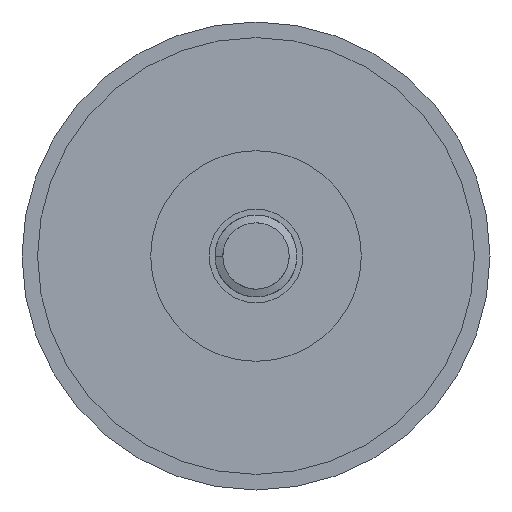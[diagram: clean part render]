
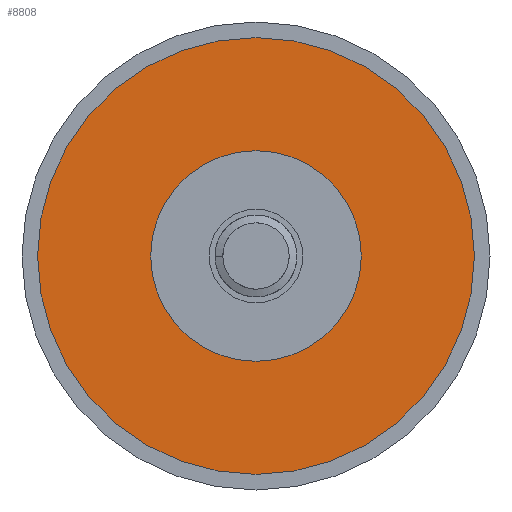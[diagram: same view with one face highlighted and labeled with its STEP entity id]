
A CAD part, front view. The second image highlights one B-rep face of the part: STEP entity #8808.
In plain terms, the highlighted planar face has unit normal (0, -1, 0).
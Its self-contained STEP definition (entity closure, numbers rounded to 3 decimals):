
#532 = EDGE_CURVE ( 'NONE', #14907, #8446, #4493, .T. ) ;
#1558 = ORIENTED_EDGE ( 'NONE', *, *, #8915, .F. ) ;
#1639 = CARTESIAN_POINT ( 'NONE',  ( 0., 0., 0. ) ) ;
#2170 = AXIS2_PLACEMENT_3D ( 'NONE', #8179, #19526, #9792 ) ;
#3312 = DIRECTION ( 'NONE',  ( 0., 0., -1. ) ) ;
#3683 = CARTESIAN_POINT ( 'NONE',  ( 0., 0., -13.5 ) ) ;
#4378 = PLANE ( 'NONE',  #15623 ) ;
#4493 = CIRCLE ( 'NONE', #15656, 13.5 ) ;
#5378 = CIRCLE ( 'NONE', #2170, 28. ) ;
#6002 = DIRECTION ( 'NONE',  ( 0., 1., 0. ) ) ;
#6334 = ORIENTED_EDGE ( 'NONE', *, *, #12310, .F. ) ;
#8172 = CARTESIAN_POINT ( 'NONE',  ( 0., 0., 0. ) ) ;
#8179 = CARTESIAN_POINT ( 'NONE',  ( 0., 0., 0. ) ) ;
#8350 = CARTESIAN_POINT ( 'NONE',  ( 0., 0., -28. ) ) ;
#8446 = VERTEX_POINT ( 'NONE', #3683 ) ;
#8778 = VERTEX_POINT ( 'NONE', #18740 ) ;
#8808 = ADVANCED_FACE ( 'NONE', ( #13991, #18790 ), #4378, .F. ) ;
#8915 = EDGE_CURVE ( 'NONE', #8778, #17699, #5378, .T. ) ;
#9399 = AXIS2_PLACEMENT_3D ( 'NONE', #8172, #19517, #9782 ) ;
#9782 = DIRECTION ( 'NONE',  ( 0., 0., -1. ) ) ;
#9792 = DIRECTION ( 'NONE',  ( 0., 0., -1. ) ) ;
#11575 = EDGE_CURVE ( 'NONE', #17699, #8778, #20415, .T. ) ;
#12310 = EDGE_CURVE ( 'NONE', #8446, #14907, #18639, .T. ) ;
#12313 = AXIS2_PLACEMENT_3D ( 'NONE', #1639, #12998, #3312 ) ;
#12457 = ORIENTED_EDGE ( 'NONE', *, *, #532, .F. ) ;
#12650 = DIRECTION ( 'NONE',  ( 0., -1., 0. ) ) ;
#12677 = CARTESIAN_POINT ( 'NONE',  ( 0., 0., 0. ) ) ;
#12998 = DIRECTION ( 'NONE',  ( 0., -1., 0. ) ) ;
#13991 = FACE_OUTER_BOUND ( 'NONE', #15215, .T. ) ;
#14002 = CARTESIAN_POINT ( 'NONE',  ( 0., 0., 0. ) ) ;
#14317 = DIRECTION ( 'NONE',  ( 0., 0., -1. ) ) ;
#14907 = VERTEX_POINT ( 'NONE', #17168 ) ;
#15215 = EDGE_LOOP ( 'NONE', ( #17437, #1558 ) ) ;
#15623 = AXIS2_PLACEMENT_3D ( 'NONE', #14002, #6002, #17310 ) ;
#15656 = AXIS2_PLACEMENT_3D ( 'NONE', #12677, #12650, #14317 ) ;
#17168 = CARTESIAN_POINT ( 'NONE',  ( 0., 0., 13.5 ) ) ;
#17310 = DIRECTION ( 'NONE',  ( 0., 0., 1. ) ) ;
#17437 = ORIENTED_EDGE ( 'NONE', *, *, #11575, .F. ) ;
#17699 = VERTEX_POINT ( 'NONE', #8350 ) ;
#18639 = CIRCLE ( 'NONE', #12313, 13.5 ) ;
#18740 = CARTESIAN_POINT ( 'NONE',  ( 0., 0., 28. ) ) ;
#18790 = FACE_BOUND ( 'NONE', #20449, .T. ) ;
#19517 = DIRECTION ( 'NONE',  ( 0., 1., 0. ) ) ;
#19526 = DIRECTION ( 'NONE',  ( 0., 1., 0. ) ) ;
#20415 = CIRCLE ( 'NONE', #9399, 28. ) ;
#20449 = EDGE_LOOP ( 'NONE', ( #6334, #12457 ) ) ;
